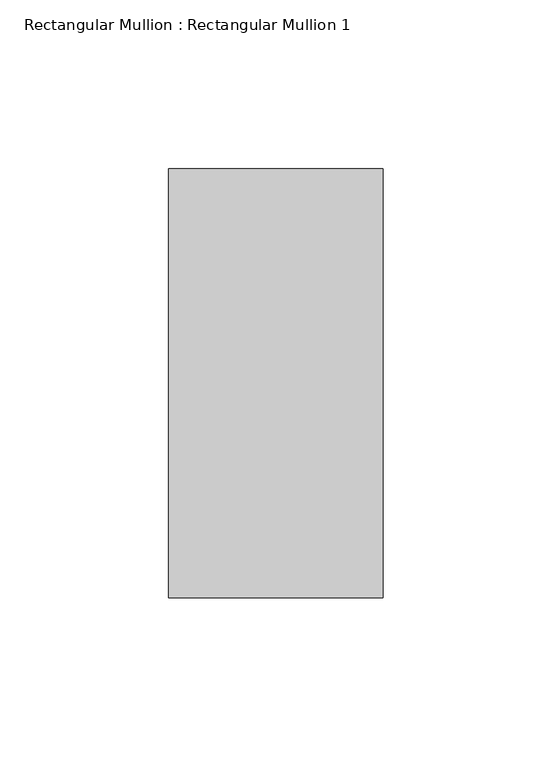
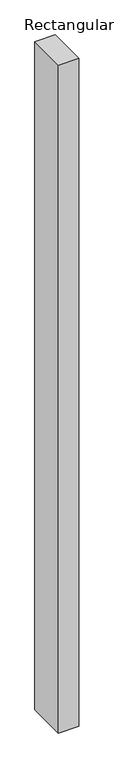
"""IFC4 building model written with IfcOpenShell, lengths in millimetres: member geometry, Rectangular Mullion : Rectangular Mullion 1."""

from ifc_helpers import new_model, si_unit, frame, origin, place, context, project, spatial, polyline, outline, extrude, source, transform, mapped, element, save


def rectangular_mullion_rectangular_mullion_1_eee6716d(model_context):
    return source(origin(), model_context, "Body", "SweptSolid", [
        extrude(outline(polyline([(31.75, 63.5), (31.75, -63.5), (-31.75, -63.5), (-31.75, 63.5), (31.75, 63.5)])), frame((0.0, 0.0, -2200.0), z_axis=(0.0, 0.0, 1.0), x_axis=(1.0, 0.0, 0.0)), (0.0, 0.0, 1.0), 2200.0),
    ])


if __name__ == "__main__":
    model = new_model("IFC4")
    model_context = context("Model", 3, world=origin())
    ifc_project = project(units=[si_unit("LENGTHUNIT", "METRE", prefix="MILLI")], contexts=[model_context])
    site = spatial("IfcSite", under=ifc_project)
    building = spatial("IfcBuilding", under=site)
    placement = place(None, origin())
    rectangular_mullion_rectangular_mullion_1_shape = rectangular_mullion_rectangular_mullion_1_eee6716d(model_context)
    element("IfcMember", 1, ObjectType="Rectangular Mullion : Rectangular Mullion 1", at=placement, inside=building, context=model_context, shape_type="MappedRepresentation", body=[
        mapped(rectangular_mullion_rectangular_mullion_1_shape, transform((0.0, 0.0, 0.0), x_axis=(1.0, 0.0, 0.0), y_axis=(0.0, 1.0, 0.0), z_axis=(0.0, 0.0, 1.0))),
    ])
    save(model, "model.ifc")
